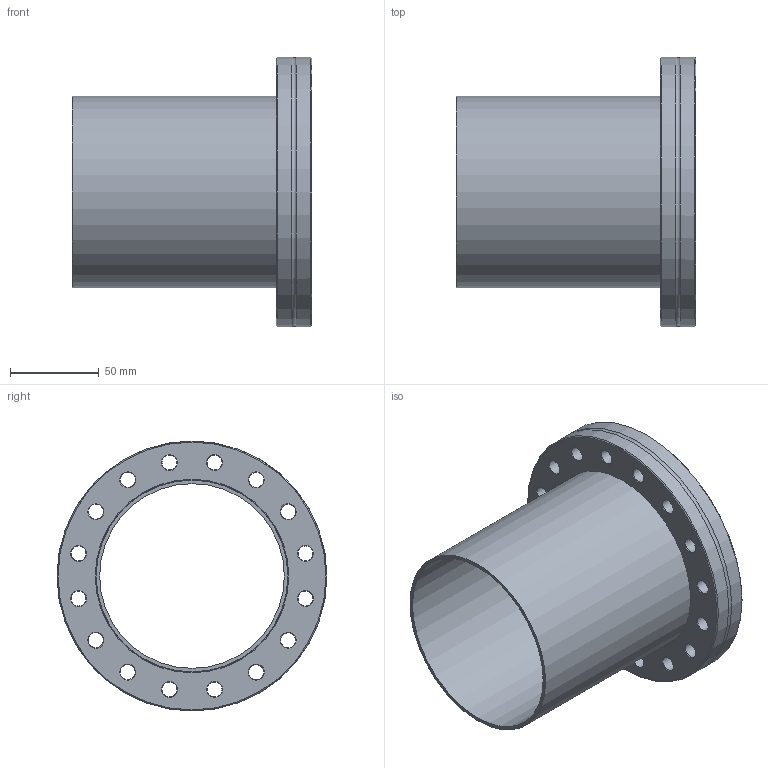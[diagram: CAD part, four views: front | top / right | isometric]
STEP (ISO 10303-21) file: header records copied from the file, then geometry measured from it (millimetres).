
FILE_DESCRIPTION((''),'2;1');
FILE_NAME('W:\13785_CF_Global_Fit_Umsetzung\089_Flange_with_Tube_Rotatable\M213-064.stp','2010-09-01T12:47:14',('KAA'),(''),'Autodesk Inventor 2011','Autodesk Inventor 2011','');
FILE_SCHEMA(('AUTOMOTIVE_DESIGN { 1 0 10303 214 1 1 1 1 }'));
Length unit declared in the file: millimetre
Products named in the file (1): 213-064
Bounding box: 135 x 152 x 152 mm (x, y, z)
Volume: 243527.3 mm3; surface area: 136462.4 mm2
Topology: 1 solids, 1 shells, 79 faces, 189 edges, 118 vertices
Faces by surface type: cone 39, cylinder 27, plane 9, torus 4
Full cylindrical faces by diameter (mm): 8.4 x16, 104 x2, 108 x1, 108.5 x2, 109 x1, 120.4 x1, 120.6 x1, 152 x2
Entity records: 2000 total; most frequent: DIRECTION 350, CARTESIAN_POINT 317, ORIENTED_EDGE 206, EDGE_LOOP 186, AXIS2_PLACEMENT_3D 174, FACE_BOUND 107, EDGE_CURVE 103, VERTEX_POINT 99
